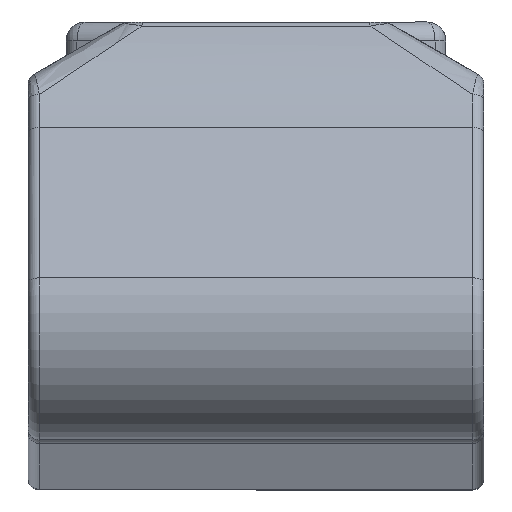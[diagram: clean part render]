
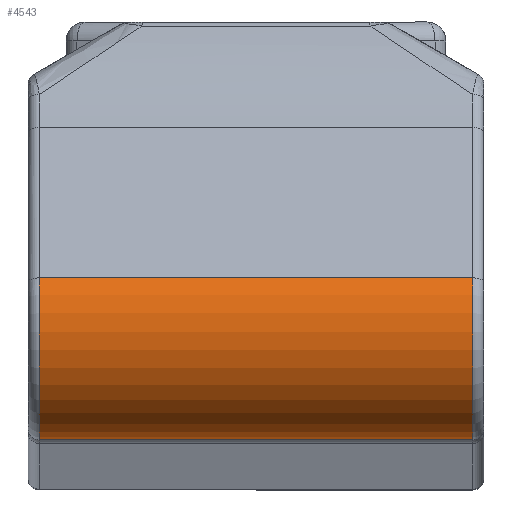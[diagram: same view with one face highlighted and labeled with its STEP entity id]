
A CAD part, front view. The second image highlights one B-rep face of the part: STEP entity #4543.
In plain terms, the highlighted cylindrical face has radius 3 mm (diameter 6 mm), a partial arc.
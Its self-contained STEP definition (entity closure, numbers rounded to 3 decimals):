
#4004=CARTESIAN_POINT('',(-5.7,0.281,-6.732));
#4005=VERTEX_POINT('',#4004);
#4037=CARTESIAN_POINT('',(-5.7,2.842,-10.996));
#4038=VERTEX_POINT('',#4037);
#4046=CARTESIAN_POINT('',(-5.7,3.,-8.));
#4047=DIRECTION('',(-1.0,0.,0.));
#4048=DIRECTION('',(0.,-0.857,-0.515));
#4049=AXIS2_PLACEMENT_3D('',#4046,#4047,#4048);
#4050=CIRCLE('',#4049,3.);
#4051=EDGE_CURVE('',#4038,#4005,#4050,.T.);
#4167=CARTESIAN_POINT('',(5.7,0.281,-6.732));
#4168=VERTEX_POINT('',#4167);
#4276=CARTESIAN_POINT('',(5.7,2.842,-10.996));
#4277=VERTEX_POINT('',#4276);
#4302=CARTESIAN_POINT('',(5.7,3.,-8.));
#4303=DIRECTION('',(1.0,0.,0.));
#4304=DIRECTION('',(0.,-0.857,-0.515));
#4305=AXIS2_PLACEMENT_3D('',#4302,#4303,#4304);
#4306=CIRCLE('',#4305,3.);
#4307=EDGE_CURVE('',#4168,#4277,#4306,.T.);
#4516=CARTESIAN_POINT('',(-5.7,0.281,-6.732));
#4517=DIRECTION('',(1.0,0.0,0.0));
#4518=VECTOR('',#4517,11.4);
#4519=LINE('',#4516,#4518);
#4520=EDGE_CURVE('',#4005,#4168,#4519,.T.);
#4527=CARTESIAN_POINT('',(-6.,3.,-8.));
#4528=DIRECTION('',(1.0,0.,0.));
#4529=DIRECTION('',(0.,-0.053,-0.999));
#4530=AXIS2_PLACEMENT_3D('',#4527,#4528,#4529);
#4531=CYLINDRICAL_SURFACE('',#4530,3.);
#4532=ORIENTED_EDGE('',*,*,#4051,.F.);
#4533=CARTESIAN_POINT('',(-5.7,2.842,-10.996));
#4534=DIRECTION('',(1.0,0.0,0.0));
#4535=VECTOR('',#4534,11.4);
#4536=LINE('',#4533,#4535);
#4537=EDGE_CURVE('',#4038,#4277,#4536,.T.);
#4538=ORIENTED_EDGE('',*,*,#4537,.T.);
#4539=ORIENTED_EDGE('',*,*,#4307,.F.);
#4540=ORIENTED_EDGE('',*,*,#4520,.F.);
#4541=EDGE_LOOP('',(#4532,#4538,#4539,#4540));
#4542=FACE_OUTER_BOUND('',#4541,.T.);
#4543=ADVANCED_FACE('',(#4542),#4531,.T.);
